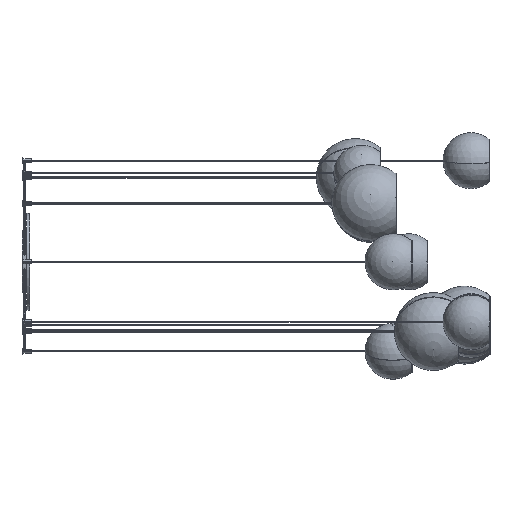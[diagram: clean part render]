
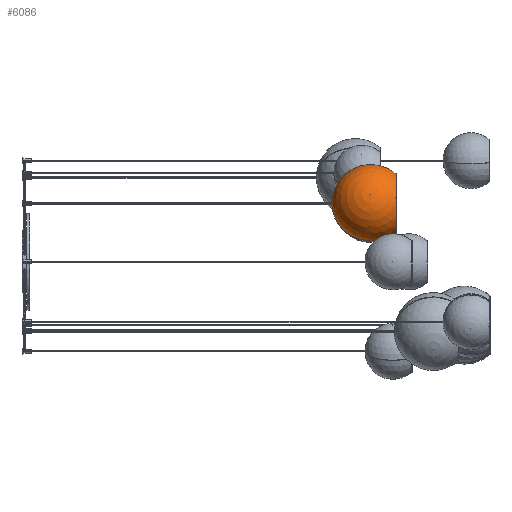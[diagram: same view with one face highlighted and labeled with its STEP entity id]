
A CAD part, left-side view. The second image highlights one B-rep face of the part: STEP entity #6086.
In plain terms, the highlighted spherical face has radius 125 mm.
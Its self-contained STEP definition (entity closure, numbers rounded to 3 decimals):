
#81 = ORIENTED_EDGE ( 'NONE', *, *, #10506, .T. ) ;
#462 = DIRECTION ( 'NONE',  ( 1., 0., 0. ) ) ;
#928 = ORIENTED_EDGE ( 'NONE', *, *, #9877, .T. ) ;
#1011 = CIRCLE ( 'NONE', #4789, 95.205 ) ;
#1216 = CARTESIAN_POINT ( 'NONE',  ( 0., 205.984, 0. ) ) ;
#1391 = DIRECTION ( 'NONE',  ( 0., 0., -1. ) ) ;
#1459 = VERTEX_POINT ( 'NONE', #4100 ) ;
#1473 = EDGE_CURVE ( 'NONE', #5701, #4766, #9571, .T. ) ;
#1552 = DIRECTION ( 'NONE',  ( 0., -1., 0. ) ) ;
#1890 = CIRCLE ( 'NONE', #8178, 125. ) ;
#2141 = ORIENTED_EDGE ( 'NONE', *, *, #1473, .T. ) ;
#2960 = CARTESIAN_POINT ( 'NONE',  ( -2., 205.984, 0. ) ) ;
#3129 = CARTESIAN_POINT ( 'NONE',  ( 0., 0., 0. ) ) ;
#3165 = VERTEX_POINT ( 'NONE', #10429 ) ;
#3186 = AXIS2_PLACEMENT_3D ( 'NONE', #1216, #8028, #8086 ) ;
#3569 = CIRCLE ( 'NONE', #5893, 125. ) ;
#3963 = DIRECTION ( 'NONE',  ( 1., 0., 0. ) ) ;
#4100 = CARTESIAN_POINT ( 'NONE',  ( -95.205, 0., 0. ) ) ;
#4411 = AXIS2_PLACEMENT_3D ( 'NONE', #9997, #8021, #3963 ) ;
#4573 = DIRECTION ( 'NONE',  ( 0., 0., 1. ) ) ;
#4577 = ORIENTED_EDGE ( 'NONE', *, *, #4845, .F. ) ;
#4759 = SPHERICAL_SURFACE ( 'NONE', #4411, 125. ) ;
#4766 = VERTEX_POINT ( 'NONE', #8795 ) ;
#4789 = AXIS2_PLACEMENT_3D ( 'NONE', #3129, #5795, #6569 ) ;
#4845 = EDGE_CURVE ( 'NONE', #5701, #1459, #1890, .T. ) ;
#4957 = EDGE_LOOP ( 'NONE', ( #4577, #2141, #81, #928, #8425 ) ) ;
#5701 = VERTEX_POINT ( 'NONE', #2960 ) ;
#5795 = DIRECTION ( 'NONE',  ( 0., -1., 0. ) ) ;
#5819 = CARTESIAN_POINT ( 'NONE',  ( 0., 81., 0. ) ) ;
#5893 = AXIS2_PLACEMENT_3D ( 'NONE', #5819, #10147, #9242 ) ;
#6086 = ADVANCED_FACE ( 'NONE', ( #9886 ), #4759, .T. ) ;
#6498 = AXIS2_PLACEMENT_3D ( 'NONE', #8316, #1552, #1391 ) ;
#6569 = DIRECTION ( 'NONE',  ( 0., 0., -1. ) ) ;
#7026 = EDGE_CURVE ( 'NONE', #1459, #3165, #1011, .T. ) ;
#8008 = VERTEX_POINT ( 'NONE', #9932 ) ;
#8021 = DIRECTION ( 'NONE',  ( 0., 0., 1. ) ) ;
#8028 = DIRECTION ( 'NONE',  ( 0., -1., 0. ) ) ;
#8086 = DIRECTION ( 'NONE',  ( 0., 0., -1. ) ) ;
#8178 = AXIS2_PLACEMENT_3D ( 'NONE', #10607, #4573, #462 ) ;
#8316 = CARTESIAN_POINT ( 'NONE',  ( 0., 205.984, 0. ) ) ;
#8425 = ORIENTED_EDGE ( 'NONE', *, *, #7026, .F. ) ;
#8775 = CIRCLE ( 'NONE', #3186, 2. ) ;
#8795 = CARTESIAN_POINT ( 'NONE',  ( 0., 205.984, -2. ) ) ;
#9242 = DIRECTION ( 'NONE',  ( -1., 0., 0. ) ) ;
#9571 = CIRCLE ( 'NONE', #6498, 2. ) ;
#9877 = EDGE_CURVE ( 'NONE', #8008, #3165, #3569, .T. ) ;
#9886 = FACE_OUTER_BOUND ( 'NONE', #4957, .T. ) ;
#9932 = CARTESIAN_POINT ( 'NONE',  ( 2., 205.984, 0. ) ) ;
#9997 = CARTESIAN_POINT ( 'NONE',  ( 0., 81., 0. ) ) ;
#10147 = DIRECTION ( 'NONE',  ( 0., 0., -1. ) ) ;
#10429 = CARTESIAN_POINT ( 'NONE',  ( 95.205, 0., 0. ) ) ;
#10506 = EDGE_CURVE ( 'NONE', #4766, #8008, #8775, .T. ) ;
#10607 = CARTESIAN_POINT ( 'NONE',  ( 0., 81., 0. ) ) ;
